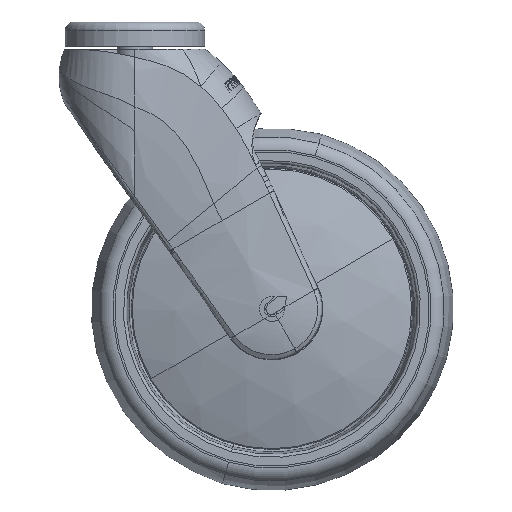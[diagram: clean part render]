
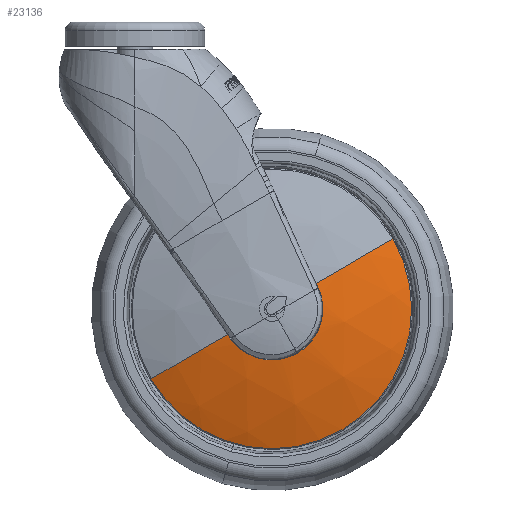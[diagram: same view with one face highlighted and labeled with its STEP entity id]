
A CAD part, front view. The second image highlights one B-rep face of the part: STEP entity #23136.
In plain terms, the highlighted spherical face has radius 136.86 mm.
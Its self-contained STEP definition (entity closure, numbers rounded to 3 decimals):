
#2938 = CARTESIAN_POINT ( 'NONE',  ( 15.171, -21.962, 8.786 ) ) ;
#2999 = CARTESIAN_POINT ( 'NONE',  ( -41.473, -14.425, -24.017 ) ) ;
#8142 = CARTESIAN_POINT ( 'NONE',  ( 0., 113.77, 0. ) ) ;
#8274 = DIRECTION ( 'NONE',  ( 0.865, 0., 0.501 ) ) ;
#8275 = DIRECTION ( 'NONE',  ( 0.501, 0., -0.865 ) ) ;
#8276 = AXIS2_PLACEMENT_3D ( 'NONE', #8142, #8275, #8274 ) ;
#8277 = SPHERICAL_SURFACE ( 'NONE', #8276, 136.86 ) ;
#8278 = FACE_OUTER_BOUND ( 'NONE', #90423, .T. ) ;
#8319 = CARTESIAN_POINT ( 'NONE',  ( 15.774, 113.77, 7.521 ) ) ;
#8363 = DIRECTION ( 'NONE',  ( 0.43, 0., -0.903 ) ) ;
#8364 = DIRECTION ( 'NONE',  ( 0.903, 0., 0.43 ) ) ;
#8365 = AXIS2_PLACEMENT_3D ( 'NONE', #8319, #8364, #8363 ) ;
#8366 = CIRCLE ( 'NONE', #8365, 135.74 ) ;
#8383 = CARTESIAN_POINT ( 'NONE',  ( 0., -14.425, 0. ) ) ;
#8384 = CIRCLE ( 'NONE', #8506, 47.925 ) ;
#8385 = CARTESIAN_POINT ( 'NONE',  ( 0., 113.77, 0. ) ) ;
#8500 = DIRECTION ( 'NONE',  ( 0.865, 0., 0.501 ) ) ;
#8501 = DIRECTION ( 'NONE',  ( -0.501, 0., 0.865 ) ) ;
#8502 = AXIS2_PLACEMENT_3D ( 'NONE', #8385, #8501, #8500 ) ;
#8503 = CIRCLE ( 'NONE', #8502, 136.86 ) ;
#8504 = DIRECTION ( 'NONE',  ( -0.865, 0., -0.501 ) ) ;
#8505 = DIRECTION ( 'NONE',  ( 0., 1., 0. ) ) ;
#8506 = AXIS2_PLACEMENT_3D ( 'NONE', #8383, #8505, #8504 ) ;
#9321 = CARTESIAN_POINT ( 'NONE',  ( -15.171, -21.962, -8.786 ) ) ;
#9322 = DIRECTION ( 'NONE',  ( -0.569, 0., 0.823 ) ) ;
#9323 = DIRECTION ( 'NONE',  ( -0.823, 0., -0.569 ) ) ;
#9324 = CARTESIAN_POINT ( 'NONE',  ( -14.375, 113.77, -9.938 ) ) ;
#9325 = AXIS2_PLACEMENT_3D ( 'NONE', #9324, #9323, #9322 ) ;
#9326 = CIRCLE ( 'NONE', #9325, 135.74 ) ;
#9327 = CARTESIAN_POINT ( 'NONE',  ( -14.375, -21.97, -9.938 ) ) ;
#9334 = CARTESIAN_POINT ( 'NONE',  ( 41.473, -14.425, 24.017 ) ) ;
#9412 = DIRECTION ( 'NONE',  ( -0.865, 0., -0.501 ) ) ;
#9413 = DIRECTION ( 'NONE',  ( 0.501, 0., -0.865 ) ) ;
#9414 = CARTESIAN_POINT ( 'NONE',  ( 0., 113.77, 0. ) ) ;
#9415 = AXIS2_PLACEMENT_3D ( 'NONE', #9414, #9413, #9412 ) ;
#9416 = CIRCLE ( 'NONE', #9415, 136.86 ) ;
#11068 = CARTESIAN_POINT ( 'NONE',  ( 15.774, -21.97, 7.521 ) ) ;
#11088 = DIRECTION ( 'NONE',  ( -0.865, 0., -0.501 ) ) ;
#11090 = DIRECTION ( 'NONE',  ( 0., 1., 0. ) ) ;
#11091 = AXIS2_PLACEMENT_3D ( 'NONE', #11099, #11090, #11088 ) ;
#11092 = CIRCLE ( 'NONE', #11091, 17.476 ) ;
#11099 = CARTESIAN_POINT ( 'NONE',  ( 0., -21.97, 0. ) ) ;
#22877 = ORIENTED_EDGE ( 'NONE', *, *, #23180, .F. ) ;
#22879 = VERTEX_POINT ( 'NONE', #2938 ) ;
#22881 = VERTEX_POINT ( 'NONE', #2999 ) ;
#23136 = ADVANCED_FACE ( 'NONE', ( #8278 ), #8277, .T. ) ;
#23161 = EDGE_CURVE ( 'NONE', #22879, #23234, #8366, .T. ) ;
#23167 = ORIENTED_EDGE ( 'NONE', *, *, #23161, .T. ) ;
#23180 = EDGE_CURVE ( 'NONE', #23187, #22881, #8384, .T. ) ;
#23181 = EDGE_CURVE ( 'NONE', #22879, #23187, #8503, .T. ) ;
#23183 = ORIENTED_EDGE ( 'NONE', *, *, #23181, .F. ) ;
#23187 = VERTEX_POINT ( 'NONE', #9334 ) ;
#23191 = ORIENTED_EDGE ( 'NONE', *, *, #23203, .T. ) ;
#23195 = VERTEX_POINT ( 'NONE', #9327 ) ;
#23197 = EDGE_CURVE ( 'NONE', #23195, #23198, #9326, .T. ) ;
#23198 = VERTEX_POINT ( 'NONE', #9321 ) ;
#23203 = EDGE_CURVE ( 'NONE', #23198, #22881, #9416, .T. ) ;
#23206 = ORIENTED_EDGE ( 'NONE', *, *, #23197, .T. ) ;
#23230 = EDGE_CURVE ( 'NONE', #23234, #23195, #11092, .T. ) ;
#23234 = VERTEX_POINT ( 'NONE', #11068 ) ;
#23235 = ORIENTED_EDGE ( 'NONE', *, *, #23230, .T. ) ;
#90423 = EDGE_LOOP ( 'NONE', ( #23206, #23191, #22877, #23183, #23167, #23235 ) ) ;
